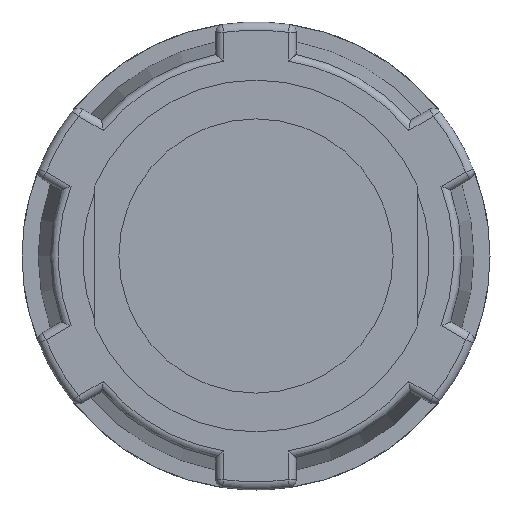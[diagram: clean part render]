
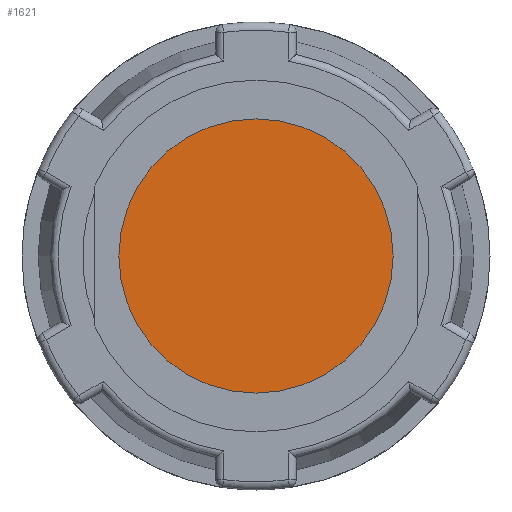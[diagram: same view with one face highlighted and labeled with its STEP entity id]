
A CAD part, front view. The second image highlights one B-rep face of the part: STEP entity #1621.
In plain terms, the highlighted planar face has unit normal (0, -1, 0).
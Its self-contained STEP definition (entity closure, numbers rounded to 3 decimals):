
#68=CARTESIAN_POINT('',(0.,13.5,0.));
#69=DIRECTION('',(0.,-1.,0.));
#70=DIRECTION('',(1.,0.,0.));
#71=AXIS2_PLACEMENT_3D('',#68,#69,#70);
#77=CARTESIAN_POINT('',(0.,13.5,0.));
#78=DIRECTION('',(0.,1.,0.));
#79=DIRECTION('',(1.,0.,0.));
#80=AXIS2_PLACEMENT_3D('',#77,#78,#79);
#1314=CARTESIAN_POINT('',(8.5,13.5,0.));
#1316=VERTEX_POINT('',#1314);
#1324=CARTESIAN_POINT('',(-8.5,13.5,0.));
#1326=VERTEX_POINT('',#1324);
#1610=CARTESIAN_POINT('',(0.,13.5,0.));
#1611=DIRECTION('',(0.,1.,0.));
#1612=DIRECTION('',(1.,0.,0.));
#1613=AXIS2_PLACEMENT_3D('',#1610,#1611,#1612);
#1614=PLANE('',#1613);
#1616=ORIENTED_EDGE('',*,*,#1615,.F.);
#1618=ORIENTED_EDGE('',*,*,#1617,.T.);
#1619=EDGE_LOOP('',(#1616,#1618));
#1620=FACE_OUTER_BOUND('',#1619,.F.);
#72=CIRCLE('',#71,8.5);
#81=CIRCLE('',#80,8.5);
#1615=EDGE_CURVE('',#1316,#1326,#72,.T.);
#1617=EDGE_CURVE('',#1316,#1326,#81,.T.);
#1621=ADVANCED_FACE('',(#1620),#1614,.F.);
